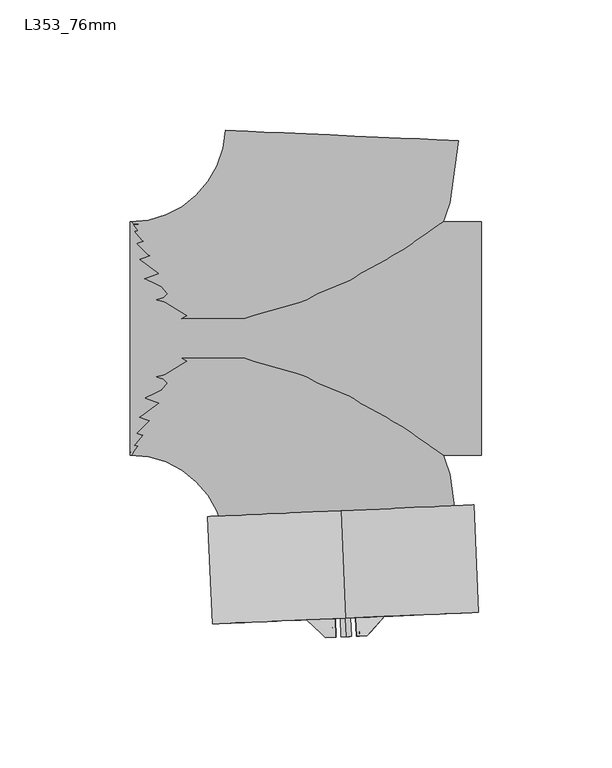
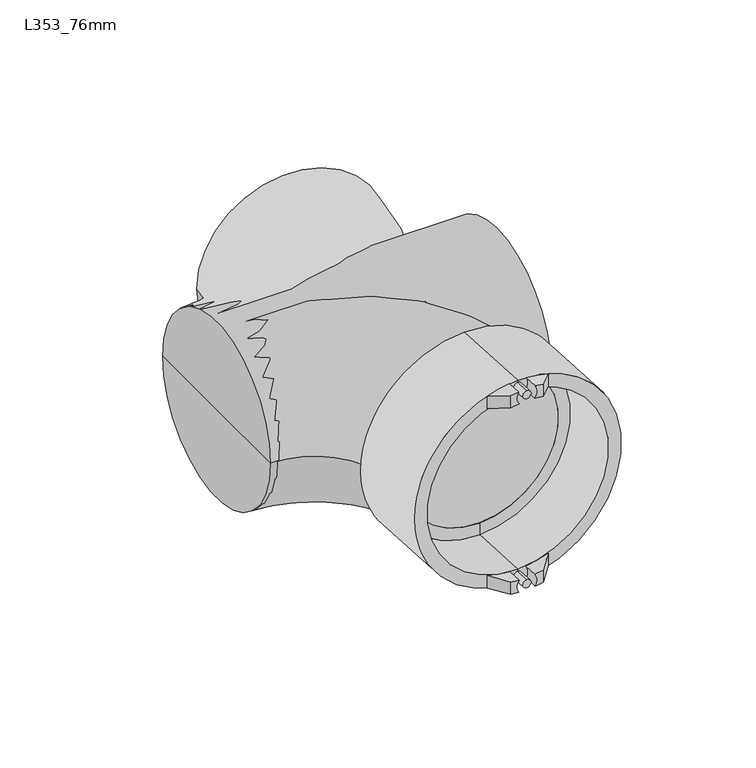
"""IFC4 building model written with IfcOpenShell, lengths in millimetres: pipe fitting geometry, Durapipe_PipeFitting_VulcatheneEnfusion_DoubleBranch_L35 : L353_76mm."""

from ifc_helpers import new_model, si_unit, point, frame, frame_2d, origin, place, context, project, spatial, polyline, circle_curve, ellipse_curve, trimmed, segment, composite_curve, outline, extrude, source, transform, mapped, element, save
from ifc_brep_helpers import plane_surface, cylinder_surface, revolved_surface, advanced_brep


def l353_76mm_fc432c4a(model_context):
    return source(origin(), model_context, "Body", "SolidModel", [
        advanced_brep(
        [(8.8373509, -114.1509853, -44.6844713), (9.0890042, -114.1399978, -50.7344713), (12.9237142, -113.9725708, -50.2768973), (12.9237142, -113.9725708, -44.1415779), (19.667297, -106.5713755, -48.6395929), (8.7793066, -107.0467555, -50.7344713), (8.5276533, -107.0577429, -44.6844713), (19.667297, -106.5713755, -42.2672746)],
        [
            (0, 1, circle_curve(frame((4.9912713, -114.3189087, -47.875), z_axis=(-0.04361938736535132, 0.9990482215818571, 0.0), x_axis=(0.0, 0.0, 1.0)), 5.0)),
            (1, 2, circle_curve(frame((4.9912713, -114.3189087, 0.0), z_axis=(0.04361938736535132, -0.9990482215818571, 0.0), x_axis=(0.0, 0.0, 1.0)), 50.9)),
            (2, 3),
            (3, 0, circle_curve(frame((4.9912713, -114.3189087, 0.0), z_axis=(-0.04361938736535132, 0.9990482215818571, 0.0), x_axis=(0.0, 0.0, 1.0)), 44.85)),
            (4, 5, circle_curve(frame((4.6815737, -107.2256663, 0.0), z_axis=(-0.04361938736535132, 0.9990482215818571, 0.0), x_axis=(0.0, 0.0, 1.0)), 50.9)),
            (5, 6, circle_curve(frame((4.6815737, -107.2256663, -47.875), z_axis=(0.04361938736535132, -0.9990482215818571, 0.0), x_axis=(0.0, 0.0, 1.0)), 5.0)),
            (6, 7, circle_curve(frame((4.6815737, -107.2256663, 0.0), z_axis=(0.04361938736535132, -0.9990482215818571, 0.0), x_axis=(0.0, 0.0, 1.0)), 44.85)),
            (7, 4),
            (6, 0),
            (3, 7, ellipse_curve(frame((5.3395715, -122.2962946, 0.0), z_axis=(0.739182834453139, -0.6735048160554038, 0.0), x_axis=(0.6735048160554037, 0.7391828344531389, 0.0)), 63.6074133, 44.85)),
            (4, 2, ellipse_curve(frame((5.3395715, -122.2962946, 0.0), z_axis=(-0.739182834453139, 0.6735048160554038, 0.0), x_axis=(-0.6735048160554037, -0.7391828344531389, 0.0)), 72.1876775, 50.9)),
            (1, 5),
        ],
        [
            plane_surface(frame((19.9769947, -113.6646179, -48.6395929), z_axis=(0.04361938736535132, -0.9990482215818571, 0.0), x_axis=(0.0, 0.0, 1.0))),
            plane_surface(frame((19.667297, -106.5713755, -48.6395929), z_axis=(-0.04361938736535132, 0.9990482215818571, 0.0), x_axis=(0.0, 0.0, -1.0))),
            revolved_surface(polyline([(3.3721579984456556, -77.23511606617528, 44.85), (7.306985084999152, -167.35747313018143, 44.85)]), (4.6815737, -107.2256663, 0.0), (-0.04361938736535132, 0.9990482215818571, 0.0)),
            cylinder_surface(frame((4.6815737, -107.2256663, 0.0), z_axis=(0.04361938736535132, -0.9990482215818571, 0.0), x_axis=(0.0, 0.0, 1.0)), 50.9),
            revolved_surface(polyline([(4.991271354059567, -114.31890875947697, -42.875), (4.6815737, -107.2256663, -42.875)]), (4.6815737, -107.2256663, -47.875), (0.04361938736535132, -0.9990482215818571, 0.0)),
            plane_surface(frame((19.667297, -106.5713755, 50.9), z_axis=(0.739182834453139, -0.6735048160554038, 0.0), x_axis=(0.0, 0.0, -1.0))),
        ],
        [
            (0, [[1, 2, 3, 4]]),
            (1, [[5, 6, 7, 8]]),
            (2, [[-7, 9, -4, 10]]),
            (3, [[-5, 11, -2, 12]]),
            (4, [[-1, -9, -6, -12]]),
            (5, [[-3, -11, -8, -10]]),
        ],
    ),
        advanced_brep(
        [(0.8935384, -114.4978196, -50.7344713), (1.1451918, -114.4868322, -44.6844713), (-2.9411715, -114.6652467, -44.1415779), (-2.9411715, -114.6652467, -50.2768973), (0.5838408, -107.4045772, -50.7344713), (-10.3041496, -107.8799572, -48.6395929), (-10.3041496, -107.8799572, -42.2672746), (0.8354941, -107.3935898, -44.6844713)],
        [
            (0, 1, circle_curve(frame((4.9912713, -114.3189087, -47.875), z_axis=(-0.04361938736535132, 0.9990482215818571, 0.0), x_axis=(0.0, 0.0, 1.0)), 5.0)),
            (1, 2, circle_curve(frame((4.9912713, -114.3189087, 0.0), z_axis=(-0.04361938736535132, 0.9990482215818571, 0.0), x_axis=(0.0, 0.0, 1.0)), 44.85)),
            (2, 3),
            (3, 0, circle_curve(frame((4.9912713, -114.3189087, 0.0), z_axis=(0.04361938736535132, -0.9990482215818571, 0.0), x_axis=(0.0, 0.0, 1.0)), 50.9)),
            (4, 5, circle_curve(frame((4.6815737, -107.2256663, 0.0), z_axis=(-0.04361938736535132, 0.9990482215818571, 0.0), x_axis=(0.0, 0.0, 1.0)), 50.9)),
            (5, 6),
            (6, 7, circle_curve(frame((4.6815737, -107.2256663, 0.0), z_axis=(0.04361938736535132, -0.9990482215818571, 0.0), x_axis=(0.0, 0.0, 1.0)), 44.85)),
            (7, 4, circle_curve(frame((4.6815737, -107.2256663, -47.875), z_axis=(0.04361938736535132, -0.9990482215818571, 0.0), x_axis=(0.0, 0.0, 1.0)), 5.0)),
            (6, 2, ellipse_curve(frame((5.3395715, -122.2962946, 0.0), z_axis=(-0.677670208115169, -0.7353659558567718, 0.0), x_axis=(-0.7353659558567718, 0.6776702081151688, 0.0)), 63.6074133, 44.85)),
            (1, 7),
            (4, 0),
            (3, 5, ellipse_curve(frame((5.3395715, -122.2962946, 0.0), z_axis=(0.677670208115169, 0.7353659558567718, 0.0), x_axis=(0.7353659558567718, -0.6776702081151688, 0.0)), 72.1876775, 50.9)),
        ],
        [
            plane_surface(frame((19.9769947, -113.6646179, -48.6395929), z_axis=(0.04361938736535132, -0.9990482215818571, 0.0), x_axis=(0.0, 0.0, 1.0))),
            plane_surface(frame((19.667297, -106.5713755, -48.6395929), z_axis=(-0.04361938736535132, 0.9990482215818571, 0.0), x_axis=(0.0, 0.0, -1.0))),
            revolved_surface(polyline([(3.3721579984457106, -77.23511606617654, 44.85), (7.306985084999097, -167.35747313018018, 44.85)]), (4.6815737, -107.2256663, 0.0), (-0.04361938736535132, 0.9990482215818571, 0.0)),
            cylinder_surface(frame((4.6815737, -107.2256663, 0.0), z_axis=(0.04361938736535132, -0.9990482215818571, 0.0), x_axis=(0.0, 0.0, 1.0)), 50.9),
            revolved_surface(polyline([(4.991271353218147, -114.31890874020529, -42.875), (4.6815737, -107.2256663, -42.875)]), (4.6815737, -107.2256663, -47.875), (0.04361938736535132, -0.9990482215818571, 0.0)),
            plane_surface(frame((-2.9411715, -114.6652467, 50.9), z_axis=(-0.677670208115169, -0.7353659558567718, 0.0), x_axis=(0.0, 0.0, -1.0))),
        ],
        [
            (0, [[1, 2, 3, 4]]),
            (1, [[5, 6, 7, 8]]),
            (2, [[-7, 9, -2, 10]]),
            (3, [[-5, 11, -4, 12]]),
            (4, [[-1, -11, -8, -10]]),
            (5, [[-3, -9, -6, -12]]),
        ],
    ),
        advanced_brep(
        [(9.0890042, -114.1399978, 50.7344713), (8.8373509, -114.1509853, 44.6844713), (12.9237142, -113.9725708, 44.1415779), (12.9237142, -113.9725708, 50.2768973), (8.7793066, -107.0467555, 50.7344713), (19.667297, -106.5713755, 48.6395929), (19.667297, -106.5713755, 42.2672746), (8.5276533, -107.0577429, 44.6844713)],
        [
            (0, 1, circle_curve(frame((4.9912713, -114.3189087, 47.875), z_axis=(-0.04361938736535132, 0.9990482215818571, 0.0), x_axis=(0.0, 0.0, 1.0)), 5.0)),
            (1, 2, circle_curve(frame((4.9912713, -114.3189087, 0.0), z_axis=(-0.04361938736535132, 0.9990482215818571, 0.0), x_axis=(0.0, 0.0, 1.0)), 44.85)),
            (2, 3),
            (3, 0, circle_curve(frame((4.9912713, -114.3189087, 0.0), z_axis=(0.04361938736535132, -0.9990482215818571, 0.0), x_axis=(0.0, 0.0, 1.0)), 50.9)),
            (4, 5, circle_curve(frame((4.6815737, -107.2256663, 0.0), z_axis=(-0.04361938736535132, 0.9990482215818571, 0.0), x_axis=(0.0, 0.0, 1.0)), 50.9)),
            (5, 6),
            (6, 7, circle_curve(frame((4.6815737, -107.2256663, 0.0), z_axis=(0.04361938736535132, -0.9990482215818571, 0.0), x_axis=(0.0, 0.0, 1.0)), 44.85)),
            (7, 4, circle_curve(frame((4.6815737, -107.2256663, 47.875), z_axis=(0.04361938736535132, -0.9990482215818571, 0.0), x_axis=(0.0, 0.0, 1.0)), 5.0)),
            (6, 2, ellipse_curve(frame((5.3395715, -122.2962946, 0.0), z_axis=(0.739182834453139, -0.6735048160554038, 0.0), x_axis=(0.6735048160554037, 0.7391828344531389, 0.0)), 63.6074133, 44.85)),
            (1, 7),
            (4, 0),
            (3, 5, ellipse_curve(frame((5.3395715, -122.2962946, 0.0), z_axis=(-0.739182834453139, 0.6735048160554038, 0.0), x_axis=(-0.6735048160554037, -0.7391828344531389, 0.0)), 72.1876775, 50.9)),
        ],
        [
            plane_surface(frame((19.9769947, -113.6646179, -48.6395929), z_axis=(0.04361938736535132, -0.9990482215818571, 0.0), x_axis=(0.0, 0.0, 1.0))),
            plane_surface(frame((19.667297, -106.5713755, -48.6395929), z_axis=(-0.04361938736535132, 0.9990482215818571, 0.0), x_axis=(0.0, 0.0, -1.0))),
            revolved_surface(polyline([(3.3721579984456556, -77.23511606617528, 44.85), (7.306985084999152, -167.35747313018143, 44.85)]), (4.6815737, -107.2256663, 0.0), (-0.04361938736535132, 0.9990482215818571, 0.0)),
            cylinder_surface(frame((4.6815737, -107.2256663, 0.0), z_axis=(0.04361938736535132, -0.9990482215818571, 0.0), x_axis=(0.0, 0.0, 1.0)), 50.9),
            revolved_surface(polyline([(4.991271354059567, -114.31890875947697, 52.875), (4.6815737, -107.2256663, 52.875)]), (4.6815737, -107.2256663, 47.875), (0.04361938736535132, -0.9990482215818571, 0.0)),
            plane_surface(frame((19.667297, -106.5713755, 50.9), z_axis=(0.739182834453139, -0.6735048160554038, 0.0), x_axis=(0.0, 0.0, -1.0))),
        ],
        [
            (0, [[1, 2, 3, 4]]),
            (1, [[5, 6, 7, 8]]),
            (2, [[-7, 9, -2, 10]]),
            (3, [[-5, 11, -4, 12]]),
            (4, [[-1, -11, -8, -10]]),
            (5, [[-3, -9, -6, -12]]),
        ],
    ),
        advanced_brep(
        [(1.1451918, -114.4868322, 44.6844713), (0.8935384, -114.4978196, 50.7344713), (-2.9411715, -114.6652467, 50.2768973), (-2.9411715, -114.6652467, 44.1415779), (-10.3041496, -107.8799572, 48.6395929), (0.5838408, -107.4045772, 50.7344713), (0.8354941, -107.3935898, 44.6844713), (-10.3041496, -107.8799572, 42.2672746)],
        [
            (0, 1, circle_curve(frame((4.9912713, -114.3189087, 47.875), z_axis=(-0.04361938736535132, 0.9990482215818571, 0.0), x_axis=(0.0, 0.0, 1.0)), 5.0)),
            (1, 2, circle_curve(frame((4.9912713, -114.3189087, 0.0), z_axis=(0.04361938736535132, -0.9990482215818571, 0.0), x_axis=(0.0, 0.0, 1.0)), 50.9)),
            (2, 3),
            (3, 0, circle_curve(frame((4.9912713, -114.3189087, 0.0), z_axis=(-0.04361938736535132, 0.9990482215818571, 0.0), x_axis=(0.0, 0.0, 1.0)), 44.85)),
            (4, 5, circle_curve(frame((4.6815737, -107.2256663, 0.0), z_axis=(-0.04361938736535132, 0.9990482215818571, 0.0), x_axis=(0.0, 0.0, 1.0)), 50.9)),
            (5, 6, circle_curve(frame((4.6815737, -107.2256663, 47.875), z_axis=(0.04361938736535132, -0.9990482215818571, 0.0), x_axis=(0.0, 0.0, 1.0)), 5.0)),
            (6, 7, circle_curve(frame((4.6815737, -107.2256663, 0.0), z_axis=(0.04361938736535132, -0.9990482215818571, 0.0), x_axis=(0.0, 0.0, 1.0)), 44.85)),
            (7, 4),
            (6, 0),
            (3, 7, ellipse_curve(frame((5.3395715, -122.2962946, 0.0), z_axis=(-0.677670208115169, -0.7353659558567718, 0.0), x_axis=(-0.7353659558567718, 0.6776702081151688, 0.0)), 63.6074133, 44.85)),
            (4, 2, ellipse_curve(frame((5.3395715, -122.2962946, 0.0), z_axis=(0.677670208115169, 0.7353659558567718, 0.0), x_axis=(0.7353659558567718, -0.6776702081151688, 0.0)), 72.1876775, 50.9)),
            (1, 5),
        ],
        [
            plane_surface(frame((19.9769947, -113.6646179, -48.6395929), z_axis=(0.04361938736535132, -0.9990482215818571, 0.0), x_axis=(0.0, 0.0, 1.0))),
            plane_surface(frame((19.667297, -106.5713755, -48.6395929), z_axis=(-0.04361938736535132, 0.9990482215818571, 0.0), x_axis=(0.0, 0.0, -1.0))),
            revolved_surface(polyline([(3.3721579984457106, -77.23511606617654, 44.85), (7.306985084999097, -167.35747313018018, 44.85)]), (4.6815737, -107.2256663, 0.0), (-0.04361938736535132, 0.9990482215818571, 0.0)),
            cylinder_surface(frame((4.6815737, -107.2256663, 0.0), z_axis=(0.04361938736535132, -0.9990482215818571, 0.0), x_axis=(0.0, 0.0, 1.0)), 50.9),
            revolved_surface(polyline([(4.991271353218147, -114.31890874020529, 52.875), (4.6815737, -107.2256663, 52.875)]), (4.6815737, -107.2256663, 47.875), (0.04361938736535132, -0.9990482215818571, 0.0)),
            plane_surface(frame((-2.9411715, -114.6652467, 50.9), z_axis=(-0.677670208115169, -0.7353659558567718, 0.0), x_axis=(0.0, 0.0, -1.0))),
        ],
        [
            (0, [[1, 2, 3, 4]]),
            (1, [[5, 6, 7, 8]]),
            (2, [[-7, 9, -4, 10]]),
            (3, [[-5, 11, -2, 12]]),
            (4, [[-1, -9, -6, -12]]),
            (5, [[-3, -11, -8, -10]]),
        ],
    ),
        extrude(outline(composite_curve([segment(trimmed(circle_curve(frame_2d((0.0, -2.0)), 2.0), [point((0.0, -4.0))], [point((0.0, 0.0))], False, "CARTESIAN"), True, "CONTINUOUS"), segment(trimmed(circle_curve(frame_2d((0.0, -2.0)), 2.0), [point((0.0, 0.0))], [point((0.0, -4.0))], False, "CARTESIAN"), True, "CONTINUOUS")], self_intersect=False)), frame((4.9912713, -114.3189087, -45.875), z_axis=(-0.04361938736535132, 0.9990482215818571, 0.0), x_axis=(-0.9990482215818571, -0.04361938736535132, 0.0)), (0.0, 0.0, 1.0), 7.1),
        extrude(outline(composite_curve([segment(trimmed(circle_curve(frame_2d((0.0, 93.75)), 2.0), [point((0.0, 91.75))], [point((0.0, 95.75))], False, "CARTESIAN"), True, "CONTINUOUS"), segment(trimmed(circle_curve(frame_2d((0.0, 93.75)), 2.0), [point((0.0, 95.75))], [point((0.0, 91.75))], False, "CARTESIAN"), True, "CONTINUOUS")], self_intersect=False)), frame((4.9912713, -114.3189087, -45.875), z_axis=(-0.04361938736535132, 0.9990482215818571, 0.0), x_axis=(-0.9990482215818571, -0.04361938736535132, 0.0)), (0.0, 0.0, 1.0), 7.1),
        advanced_brep(
        [(3.3948018, -77.7537438, -38.85), (3.3948018, -77.7537438, 38.85), (3.3948018, -77.7537438, 44.7), (3.3948018, -77.7537438, -44.7), (2.8844549, -66.0648796, -38.85), (2.8844549, -66.0648796, 38.85), (2.8844549, -66.0648796, -51.05), (2.8844549, -66.0648796, 51.05), (4.6815737, -107.2256663, -51.05), (4.6815737, -107.2256663, 51.05), (4.6815737, -107.2256663, -44.7), (4.6815737, -107.2256663, 44.7)],
        [
            (0, 1, circle_curve(frame((3.3948018, -77.7537438, 0.0), z_axis=(-0.04361938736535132, 0.9990482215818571, 0.0), x_axis=(0.0, 0.0, 1.0)), 38.85)),
            (1, 2),
            (2, 3, circle_curve(frame((3.3948018, -77.7537438, 0.0), z_axis=(0.04361938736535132, -0.9990482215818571, 0.0), x_axis=(0.0, 0.0, 1.0)), 44.7)),
            (3, 0),
            (1, 0, circle_curve(frame((3.3948018, -77.7537438, 0.0), z_axis=(-0.04361938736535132, 0.9990482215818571, 0.0), x_axis=(0.0, 0.0, 1.0)), 38.85)),
            (3, 2, circle_curve(frame((3.3948018, -77.7537438, 0.0), z_axis=(0.04361938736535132, -0.9990482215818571, 0.0), x_axis=(0.0, 0.0, 1.0)), 44.7)),
            (4, 5, circle_curve(frame((2.8844549, -66.0648796, 0.0), z_axis=(-0.04361938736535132, 0.9990482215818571, 0.0), x_axis=(0.0, 0.0, 1.0)), 38.85)),
            (5, 1),
            (0, 4),
            (5, 4, circle_curve(frame((2.8844549, -66.0648796, 0.0), z_axis=(-0.04361938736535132, 0.9990482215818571, 0.0), x_axis=(0.0, 0.0, 1.0)), 38.85)),
            (6, 7, circle_curve(frame((2.8844549, -66.0648796, 0.0), z_axis=(-0.04361938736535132, 0.9990482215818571, 0.0), x_axis=(0.0, 0.0, 1.0)), 51.05)),
            (7, 5),
            (4, 6),
            (7, 6, circle_curve(frame((2.8844549, -66.0648796, 0.0), z_axis=(-0.04361938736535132, 0.9990482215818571, 0.0), x_axis=(0.0, 0.0, 1.0)), 51.05)),
            (8, 9, circle_curve(frame((4.6815737, -107.2256663, 0.0), z_axis=(-0.04361938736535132, 0.9990482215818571, 0.0), x_axis=(0.0, 0.0, 1.0)), 51.05)),
            (9, 7),
            (6, 8),
            (9, 8, circle_curve(frame((4.6815737, -107.2256663, 0.0), z_axis=(-0.04361938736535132, 0.9990482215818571, 0.0), x_axis=(0.0, 0.0, 1.0)), 51.05)),
            (10, 11, circle_curve(frame((4.6815737, -107.2256663, 0.0), z_axis=(-0.04361938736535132, 0.9990482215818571, 0.0), x_axis=(0.0, 0.0, 1.0)), 44.7)),
            (11, 9),
            (8, 10),
            (11, 10, circle_curve(frame((4.6815737, -107.2256663, 0.0), z_axis=(-0.04361938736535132, 0.9990482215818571, 0.0), x_axis=(0.0, 0.0, 1.0)), 44.7)),
            (2, 11),
            (10, 3),
        ],
        [
            plane_surface(frame((3.3948018, -77.7537438, 0.0), z_axis=(0.04361938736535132, -0.9990482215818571, 0.0), x_axis=(0.0, 0.0, 1.0))),
            revolved_surface(polyline([(3.394801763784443, -77.7537438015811, 38.85), (2.884454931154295, -66.06487959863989, 38.85)]), (114.3399556, -2618.815536, 0.0), (0.04361938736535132, -0.9990482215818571, 0.0)),
            plane_surface(frame((2.8844549, -66.0648796, 0.0), z_axis=(-0.04361938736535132, 0.9990482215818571, 0.0), x_axis=(0.0, 0.0, 1.0))),
            cylinder_surface(frame((114.3399556, -2618.815536, 0.0), z_axis=(0.04361938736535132, -0.9990482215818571, 0.0), x_axis=(0.0, 0.0, 1.0)), 51.05),
            plane_surface(frame((4.6815737, -107.2256663, 0.0), z_axis=(0.04361938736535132, -0.9990482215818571, 0.0), x_axis=(0.0, 0.0, 1.0))),
            revolved_surface(polyline([(4.68157368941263, -107.22566630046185, 44.7), (3.394801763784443, -77.7537438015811, 44.7)]), (114.3399556, -2618.815536, 0.0), (0.04361938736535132, -0.9990482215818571, 0.0)),
        ],
        [
            (0, [[1, 2, 3, 4]]),
            (0, [[5, -4, 6, -2]]),
            (1, [[7, 8, -1, 9]]),
            (1, [[10, -9, -5, -8]]),
            (2, [[11, 12, -7, 13]]),
            (2, [[14, -13, -10, -12]]),
            (3, [[15, 16, -11, 17]]),
            (3, [[18, -17, -14, -16]]),
            (4, [[19, 20, -15, 21]]),
            (4, [[22, -21, -18, -20]]),
            (5, [[-3, 23, -19, 24]]),
            (5, [[-6, -24, -22, -23]]),
        ],
    ),
        advanced_brep(
        [(-77.8278186, 0.0, 0.0), (-77.8278186, 44.7, 0.0), (-77.8278186, -44.7, 0.0), (56.7721814, -44.7, 0.0), (56.7721814, 44.7, 0.0), (56.7721814, 0.0, 0.0)],
        [
            (0, 1),
            (1, 2, circle_curve(frame((-77.8278186, 0.0, 0.0), z_axis=(-1.0, 0.0, 0.0), x_axis=(0.0, 1.0, 0.0)), 44.7)),
            (2, 0),
            (2, 1, circle_curve(frame((-77.8278186, 0.0, 0.0), z_axis=(-1.0, 0.0, 0.0), x_axis=(0.0, 1.0, 0.0)), 44.7)),
            (3, 4, circle_curve(frame((56.7721814, 0.0, 0.0), z_axis=(1.0, 0.0, 0.0), x_axis=(0.0, 1.0, 0.0)), 44.7)),
            (4, 5),
            (5, 3),
            (4, 3, circle_curve(frame((56.7721814, 0.0, 0.0), z_axis=(1.0, 0.0, 0.0), x_axis=(0.0, 1.0, 0.0)), 44.7)),
            (1, 4),
            (3, 2),
        ],
        [
            plane_surface(frame((-77.8278186, 0.0, 0.0), z_axis=(-1.0, 0.0, 0.0), x_axis=(0.0, 1.0, 0.0))),
            plane_surface(frame((56.7721814, 0.0, 0.0), z_axis=(1.0, 0.0, 0.0), x_axis=(0.0, 1.0, 0.0))),
            cylinder_surface(frame((1571.2518184, 0.0, 0.0), z_axis=(-1.0, 0.0, 0.0), x_axis=(0.0, 1.0, 0.0)), 44.7),
        ],
        [
            (0, [[1, 2, 3]]),
            (0, [[-3, 4, -1]]),
            (1, [[5, 6, 7]]),
            (1, [[8, -7, -6]]),
            (2, [[-2, 9, -5, 10]]),
            (2, [[-4, -10, -8, -9]]),
        ],
    ),
        advanced_brep(
        [(-77.8278186, -44.7, 0.0), (-77.8278186, 44.7, 0.0), (-41.2626537, -79.7035304, 0.0), (48.0522573, -75.8039572, 0.0)],
        [
            (0, 1, circle_curve(frame((-77.8278186, 0.0, 0.0), z_axis=(-1.0, 0.0, 0.0), x_axis=(0.0, 1.0, 0.0)), 44.7)),
            (1, 0, circle_curve(frame((-77.8278186, 0.0, 0.0), z_axis=(-1.0, 0.0, 0.0), x_axis=(0.0, 1.0, 0.0)), 44.7)),
            (2, 3, circle_curve(frame((3.3948018, -77.7537438, 0.0), z_axis=(0.0436193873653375, -0.9990482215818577, 0.0), x_axis=(0.9990482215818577, 0.0436193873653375, 0.0)), 44.7)),
            (3, 2, circle_curve(frame((3.3948018, -77.7537438, 0.0), z_axis=(0.0436193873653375, -0.9990482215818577, 0.0), x_axis=(0.9990482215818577, 0.0436193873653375, 0.0)), 44.7)),
            (3, 1, circle_curve(frame((-77.8278186, -81.3, 0.0), z_axis=(0.0, 0.0, 1.0), x_axis=(0.0, 1.0, 0.0)), 126.0)),
            (0, 2, circle_curve(frame((-77.8278186, -81.3, 0.0), z_axis=(0.0, 0.0, -1.0), x_axis=(0.0, 1.0, 0.0)), 36.6)),
        ],
        [
            plane_surface(frame((-77.8278186, 0.0, 0.0), z_axis=(-1.0, 0.0, 0.0), x_axis=(0.0, 0.0, 1.0))),
            plane_surface(frame((3.3948018, -77.7537438, 0.0), z_axis=(0.043619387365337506, -0.9990482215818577, 0.0), x_axis=(0.0, 0.0, 1.0))),
            revolved_surface(trimmed(ellipse_curve(frame((-77.8278186, 0.0, 0.0), z_axis=(-1.0, 0.0, 0.0), x_axis=(0.0, 1.0, 0.0)), 44.7, 44.7), [point((-77.8278186, -44.7, 0.0))], [point((-77.8278186, 44.7, 0.0))], True, "CARTESIAN"), (-77.8278186, -81.3, 0.0), (0.0, 0.0, -1.0)),
            revolved_surface(trimmed(ellipse_curve(frame((-77.8278186, 0.0, 0.0), z_axis=(-1.0, 0.0, 0.0), x_axis=(0.0, 1.0, 0.0)), 44.7, 44.7), [point((-77.8278186, 44.7, 0.0))], [point((-77.8278186, -44.7, 0.0))], True, "CARTESIAN"), (-77.8278186, -81.3, 0.0), (0.0, 0.0, -1.0)),
        ],
        [
            (0, [[1, 2]]),
            (1, [[3, 4]]),
            (2, [[5, -1, 6, -4]]),
            (3, [[-6, -2, -5, -3]]),
        ],
    ),
        advanced_brep(
        [(-77.8278186, -44.7, 0.0), (-77.8278186, 44.7, 0.0), (48.0522573, 75.8039572, 0.0), (-41.2626537, 79.7035304, 0.0)],
        [
            (0, 1, circle_curve(frame((-77.8278186, 0.0, 0.0), z_axis=(-1.0, 0.0, 0.0), x_axis=(0.0, 1.0, 0.0)), 44.7)),
            (1, 0, circle_curve(frame((-77.8278186, 0.0, 0.0), z_axis=(-1.0, 0.0, 0.0), x_axis=(0.0, 1.0, 0.0)), 44.7)),
            (2, 3, circle_curve(frame((3.3948018, 77.7537438, 0.0), z_axis=(0.04361938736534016, 0.9990482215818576, 0.0), x_axis=(-0.9990482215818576, 0.04361938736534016, 0.0)), 44.7)),
            (3, 2, circle_curve(frame((3.3948018, 77.7537438, 0.0), z_axis=(0.04361938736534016, 0.9990482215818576, 0.0), x_axis=(-0.9990482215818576, 0.04361938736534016, 0.0)), 44.7)),
            (3, 1, circle_curve(frame((-77.8278186, 81.3, 0.0), z_axis=(0.0, 0.0, -1.0), x_axis=(0.0, -1.0, 0.0)), 36.6)),
            (0, 2, circle_curve(frame((-77.8278186, 81.3, 0.0), z_axis=(0.0, 0.0, 1.0), x_axis=(0.0, -1.0, 0.0)), 126.0)),
        ],
        [
            plane_surface(frame((-77.8278186, 0.0, 0.0), z_axis=(-1.0, 0.0, 0.0), x_axis=(0.0, 0.0, 1.0))),
            plane_surface(frame((3.3948018, 77.7537438, 0.0), z_axis=(0.04361938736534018, 0.9990482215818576, 0.0), x_axis=(0.0, 0.0, 1.0))),
            revolved_surface(trimmed(ellipse_curve(frame((-77.8278186, 0.0, 0.0), z_axis=(-1.0, 0.0, 0.0), x_axis=(0.0, 1.0, 0.0)), 44.7, 44.7), [point((-77.8278186, -44.7, 0.0))], [point((-77.8278186, 44.7, 0.0))], True, "CARTESIAN"), (-77.8278186, 81.3, 0.0), (0.0, 0.0, 1.0)),
            revolved_surface(trimmed(ellipse_curve(frame((-77.8278186, 0.0, 0.0), z_axis=(-1.0, 0.0, 0.0), x_axis=(0.0, 1.0, 0.0)), 44.7, 44.7), [point((-77.8278186, 44.7, 0.0))], [point((-77.8278186, -44.7, 0.0))], True, "CARTESIAN"), (-77.8278186, 81.3, 0.0), (0.0, 0.0, 1.0)),
        ],
        [
            (0, [[1, 2]]),
            (1, [[3, 4]]),
            (2, [[5, -1, 6, -4]]),
            (3, [[-6, -2, -5, -3]]),
        ],
    ),
    ])


if __name__ == "__main__":
    model = new_model("IFC4")
    model_context = context("Model", 3, world=origin())
    ifc_project = project(units=[si_unit("LENGTHUNIT", "METRE", prefix="MILLI")], contexts=[model_context])
    site = spatial("IfcSite", under=ifc_project)
    building = spatial("IfcBuilding", under=site)
    placement = place(None, origin())
    l353_76mm_shape = l353_76mm_fc432c4a(model_context)
    element("IfcPipeFitting", 1, ObjectType="Durapipe_PipeFitting_VulcatheneEnfusion_DoubleBranch_L35 : L353_76mm", at=placement, inside=building, context=model_context, shape_type="MappedRepresentation", body=[
        mapped(l353_76mm_shape, transform((0.0, 0.0, 0.0), x_axis=(1.0, 0.0, 0.0), y_axis=(0.0, 1.0, 0.0), z_axis=(0.0, 0.0, 1.0))),
    ])
    save(model, "model.ifc")
